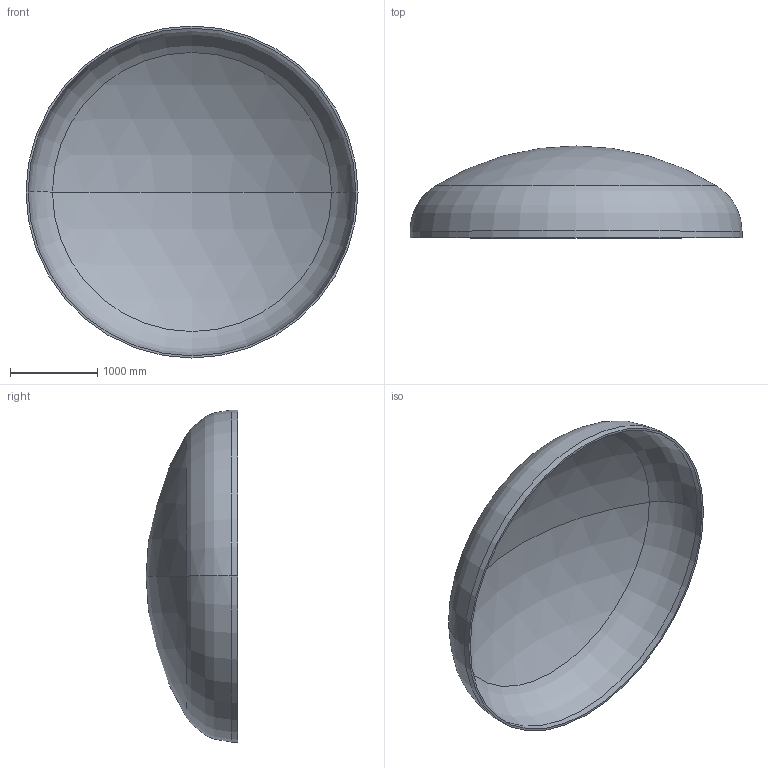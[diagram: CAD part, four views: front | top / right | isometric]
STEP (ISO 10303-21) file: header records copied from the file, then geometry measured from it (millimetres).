
FILE_DESCRIPTION (( 'STEP AP203' ), '1' );
FILE_NAME ('DIN 28013 Korbbogenform_-_Boden DIN 28013 - 3800 x 75 - I - s=25.step', '2016-07-01T21:12:05', ( '' ), ( '' ), 'SwSTEP 2.0', 'SolidWorks 2013', '' );
FILE_SCHEMA (( 'CONFIG_CONTROL_DESIGN' ));
Length unit declared in the file: millimetre
Products named in the file (1): DIN 28013 Korbbogenform_-_Boden DIN 28013 - 3800 x 75 - I - s=25
Bounding box: 3800 x 1051.24 x 3800 mm (x, y, z)
Volume: 411499339.4 mm3; surface area: 33217731.2 mm2
Topology: 1 solids, 1 shells, 13 faces, 24 edges, 14 vertices
Faces by surface type: torus 4, cylinder 4, sphere 4, plane 1
Entity records: 407 total; most frequent: DIRECTION 72, CARTESIAN_POINT 52, ORIENTED_EDGE 48, AXIS2_PLACEMENT_3D 34, EDGE_CURVE 24, CIRCLE 20, EDGE_LOOP 14, VERTEX_POINT 14
